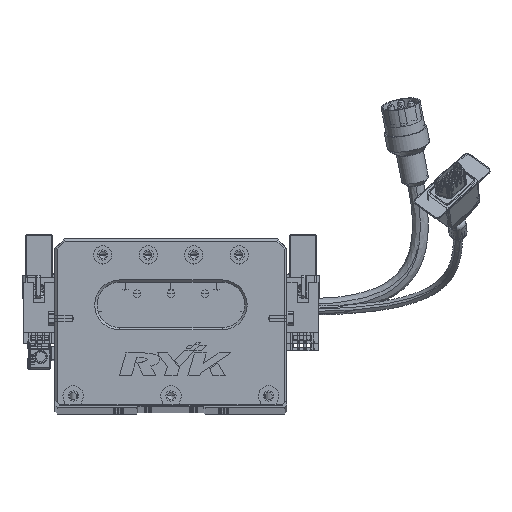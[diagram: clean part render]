
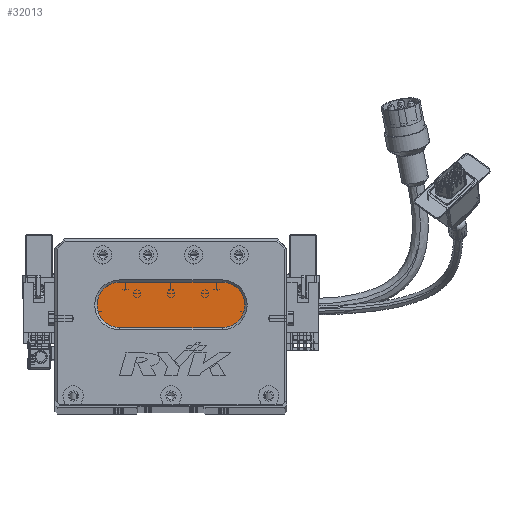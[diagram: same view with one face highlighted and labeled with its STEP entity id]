
A CAD part, top view. The second image highlights one B-rep face of the part: STEP entity #32013.
In plain terms, the highlighted planar face has unit normal (0, 0, 1) as drawn and (0, 0, -1) by its records, which use the part's own axes.
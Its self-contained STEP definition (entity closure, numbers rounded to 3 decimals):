
#1024 = ORIENTED_EDGE ( 'NONE', *, *, #12452, .T. ) ;
#1271 = AXIS2_PLACEMENT_3D ( 'NONE', #7408, #68408, #75449 ) ;
#2890 = CARTESIAN_POINT ( 'NONE',  ( 73.5, 54., 13. ) ) ;
#6624 = LINE ( 'NONE', #2890, #48838 ) ;
#7408 = CARTESIAN_POINT ( 'NONE',  ( 28.5, 44., 13. ) ) ;
#7496 = ORIENTED_EDGE ( 'NONE', *, *, #56265, .T. ) ;
#8334 = ORIENTED_EDGE ( 'NONE', *, *, #76956, .T. ) ;
#9603 = DIRECTION ( 'NONE',  ( -1., 0., 0. ) ) ;
#11289 = ORIENTED_EDGE ( 'NONE', *, *, #52809, .T. ) ;
#12063 = DIRECTION ( 'NONE',  ( -1., 0., 0. ) ) ;
#12452 = EDGE_CURVE ( 'NONE', #25147, #69142, #6624, .T. ) ;
#13431 = CIRCLE ( 'NONE', #14425, 10. ) ;
#14425 = AXIS2_PLACEMENT_3D ( 'NONE', #60963, #30804, #72702 ) ;
#15450 = VERTEX_POINT ( 'NONE', #68644 ) ;
#25147 = VERTEX_POINT ( 'NONE', #52011 ) ;
#27853 = EDGE_CURVE ( 'NONE', #69142, #44969, #67773, .T. ) ;
#29456 = VECTOR ( 'NONE', #34854, 1000. ) ;
#30804 = DIRECTION ( 'NONE',  ( 0., 0., -1. ) ) ;
#32013 = ADVANCED_FACE ( 'NONE', ( #54067 ), #64328, .T. ) ;
#32917 = CARTESIAN_POINT ( 'NONE',  ( 73.5, 44., 13. ) ) ;
#33955 = CARTESIAN_POINT ( 'NONE',  ( 73.5, 44., 13. ) ) ;
#34854 = DIRECTION ( 'NONE',  ( -1., 0., 0. ) ) ;
#38459 = ORIENTED_EDGE ( 'NONE', *, *, #27853, .T. ) ;
#42644 = LINE ( 'NONE', #76729, #29456 ) ;
#44626 = EDGE_LOOP ( 'NONE', ( #38459, #11289, #7496, #8334, #1024 ) ) ;
#44969 = VERTEX_POINT ( 'NONE', #50565 ) ;
#46292 = DIRECTION ( 'NONE',  ( 0., 0., -1. ) ) ;
#48498 = DIRECTION ( 'NONE',  ( 0., 0., -1. ) ) ;
#48838 = VECTOR ( 'NONE', #61877, 1000. ) ;
#49572 = AXIS2_PLACEMENT_3D ( 'NONE', #33955, #46292, #9603 ) ;
#49694 = CARTESIAN_POINT ( 'NONE',  ( 28.5, 34., 13. ) ) ;
#50565 = CARTESIAN_POINT ( 'NONE',  ( 73.5, 34., 13. ) ) ;
#52011 = CARTESIAN_POINT ( 'NONE',  ( 28.5, 54., 13. ) ) ;
#52809 = EDGE_CURVE ( 'NONE', #44969, #69311, #42644, .T. ) ;
#54067 = FACE_OUTER_BOUND ( 'NONE', #44626, .T. ) ;
#56265 = EDGE_CURVE ( 'NONE', #69311, #15450, #13431, .T. ) ;
#58897 = AXIS2_PLACEMENT_3D ( 'NONE', #32917, #48498, #12063 ) ;
#60963 = CARTESIAN_POINT ( 'NONE',  ( 28.5, 44., 13. ) ) ;
#61877 = DIRECTION ( 'NONE',  ( 1., 0., 0. ) ) ;
#64328 = PLANE ( 'NONE',  #49572 ) ;
#65325 = CIRCLE ( 'NONE', #1271, 10. ) ;
#67773 = CIRCLE ( 'NONE', #58897, 10. ) ;
#68408 = DIRECTION ( 'NONE',  ( 0., 0., -1. ) ) ;
#68644 = CARTESIAN_POINT ( 'NONE',  ( 18.5, 44., 13. ) ) ;
#69142 = VERTEX_POINT ( 'NONE', #71168 ) ;
#69311 = VERTEX_POINT ( 'NONE', #49694 ) ;
#71168 = CARTESIAN_POINT ( 'NONE',  ( 73.5, 54., 13. ) ) ;
#72702 = DIRECTION ( 'NONE',  ( -1., 0., 0. ) ) ;
#75449 = DIRECTION ( 'NONE',  ( -1., 0., 0. ) ) ;
#76729 = CARTESIAN_POINT ( 'NONE',  ( 73.5, 34., 13. ) ) ;
#76956 = EDGE_CURVE ( 'NONE', #15450, #25147, #65325, .T. ) ;
